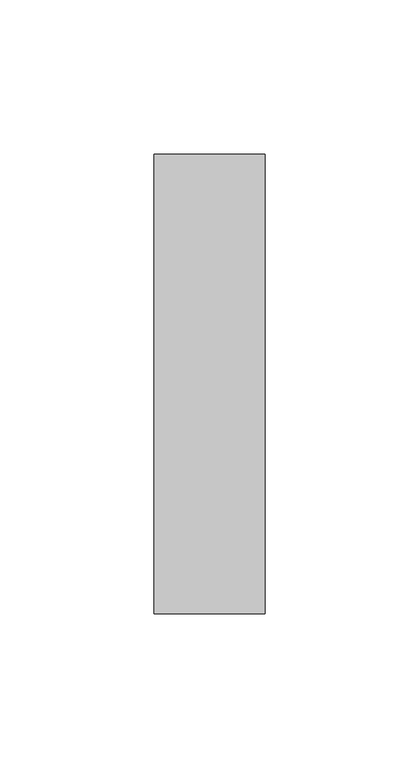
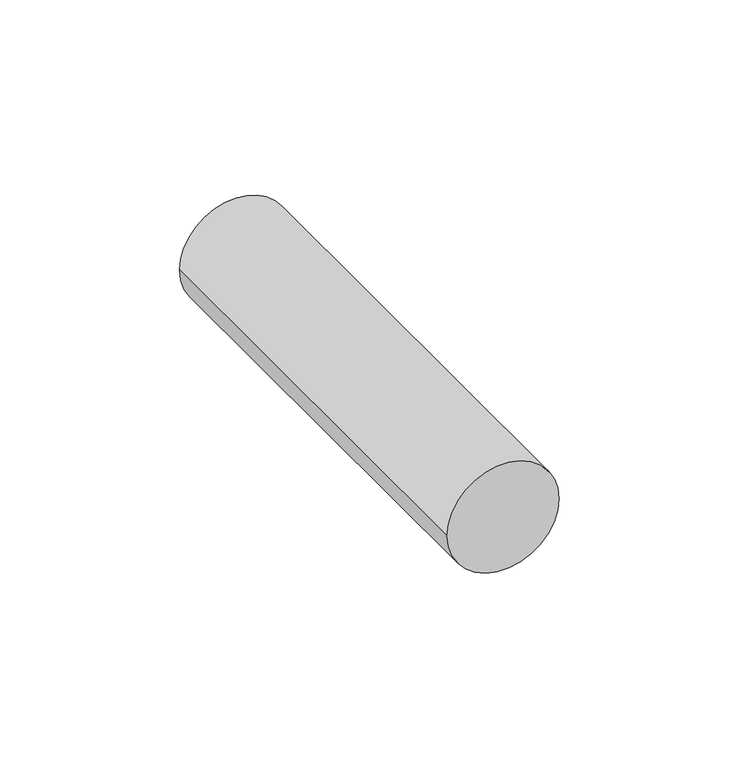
"""IFC4 building model written with IfcOpenShell, lengths in millimetres: proxy geometry, Bouchon de protection : Bouchon de protection."""

from ifc_helpers import new_model, si_unit, frame, origin, place, context, project, spatial, polyline, circle_curve, source, transform, mapped, element, save
from ifc_brep_helpers import plane_surface, cylinder_surface, revolved_surface, advanced_brep


def generic_models_b355b610(model_context):
    return source(origin(), model_context, "Body", "AdvancedBrep", [
        advanced_brep(
        [(-10.8354451, -372.3823637, 181.2317457), (25.1645549, -372.3823637, 181.2317457), (-10.8354451, -223.3820905, 181.2317457), (25.1645549, -223.3820905, 181.2317457), (-7.8354451, -223.3820905, 181.2317457), (22.1645549, -223.3820905, 181.2317457), (-7.8354451, -236.5578797, 181.2317457), (22.1645549, -236.5578797, 181.2317457)],
        [
            (0, 1, circle_curve(frame((7.1645549, -372.3823637, 181.2317457), z_axis=(0.0, -1.0, 0.0), x_axis=(1.0, 0.0, 0.0)), 18.0)),
            (1, 0, circle_curve(frame((7.1645549, -372.3823637, 181.2317457), z_axis=(0.0, -1.0, 0.0), x_axis=(1.0, 0.0, 0.0)), 18.0)),
            (2, 3, circle_curve(frame((7.1645549, -223.3820905, 181.2317457), z_axis=(0.0, 1.0, 0.0), x_axis=(1.0, 0.0, 0.0)), 18.0)),
            (3, 2, circle_curve(frame((7.1645549, -223.3820905, 181.2317457), z_axis=(0.0, 1.0, 0.0), x_axis=(1.0, 0.0, 0.0)), 18.0)),
            (4, 5, circle_curve(frame((7.1645549, -223.3820905, 181.2317457), z_axis=(0.0, -1.0, 0.0), x_axis=(1.0, 0.0, 0.0)), 15.0)),
            (5, 4, circle_curve(frame((7.1645549, -223.3820905, 181.2317457), z_axis=(0.0, -1.0, 0.0), x_axis=(1.0, 0.0, 0.0)), 15.0)),
            (0, 2),
            (3, 1),
            (6, 7, circle_curve(frame((7.1645549, -236.5578797, 181.2317457), z_axis=(0.0, 1.0, 0.0), x_axis=(1.0, 0.0, 0.0)), 15.0)),
            (7, 6, circle_curve(frame((7.1645549, -236.5578797, 181.2317457), z_axis=(0.0, 1.0, 0.0), x_axis=(1.0, 0.0, 0.0)), 15.0)),
            (7, 5),
            (4, 6),
        ],
        [
            plane_surface(frame((25.1645549, -372.3823637, 181.2317457), z_axis=(0.0, -1.0, 0.0), x_axis=(0.0, 0.0, 1.0))),
            plane_surface(frame((25.1645549, -223.3820905, 181.2317457), z_axis=(0.0, 1.0, 0.0), x_axis=(0.0, 0.0, -1.0))),
            cylinder_surface(frame((7.1645549, -223.3820905, 181.2317457), z_axis=(0.0, -1.0, 0.0), x_axis=(1.0, 0.0, 0.0)), 18.0),
            plane_surface(frame((22.1645549, -236.5578797, 181.2317457), z_axis=(0.0, 1.0, 0.0), x_axis=(0.0, 0.0, 1.0))),
            revolved_surface(polyline([(22.1645549, -236.5578797, 181.2317457), (22.1645549, -223.3820905, 181.2317457)]), (7.1645549, -219.4880099, 181.2317457), (0.0, -1.0, 0.0)),
        ],
        [
            (0, [[1, 2]]),
            (1, [[3, 4], [5, 6]]),
            (2, [[-1, 7, -4, 8]]),
            (2, [[-2, -8, -3, -7]]),
            (3, [[9, 10]]),
            (4, [[-10, 11, -5, 12]]),
            (4, [[-9, -12, -6, -11]]),
        ],
    ),
    ])


if __name__ == "__main__":
    model = new_model("IFC4")
    model_context = context("Model", 3, world=origin())
    ifc_project = project(units=[si_unit("LENGTHUNIT", "METRE", prefix="MILLI")], contexts=[model_context])
    site = spatial("IfcSite", under=ifc_project)
    building = spatial("IfcBuilding", under=site)
    placement = place(None, origin())
    generic_models_shape = generic_models_b355b610(model_context)
    element("IfcBuildingElementProxy", 1, Name="Bouchon de protection : Bouchon de protection", ObjectType="Bouchon de protection : Bouchon de protection", at=placement, inside=building, context=model_context, shape_type="MappedRepresentation", body=[
        mapped(generic_models_shape, transform((0.0, 0.0, 0.0), x_axis=(1.0, 0.0, 0.0), y_axis=(0.0, 1.0, 0.0), z_axis=(0.0, 0.0, 1.0))),
    ])
    save(model, "model.ifc")
